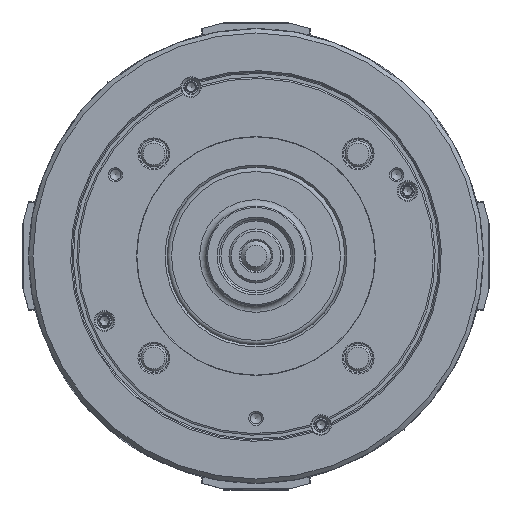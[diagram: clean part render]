
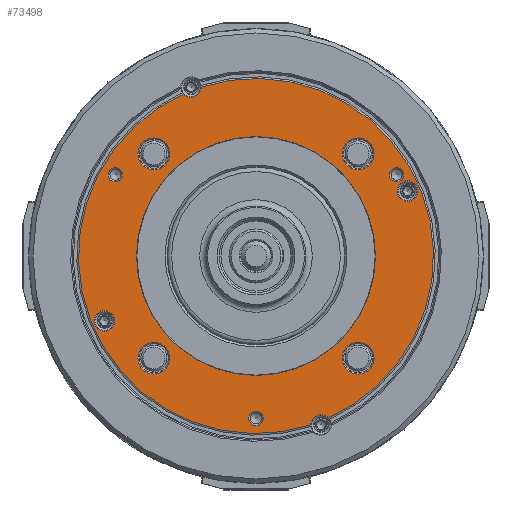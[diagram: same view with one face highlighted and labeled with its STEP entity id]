
A CAD part, left-side view. The second image highlights one B-rep face of the part: STEP entity #73498.
In plain terms, the highlighted planar face has unit normal (-1, 0, 0).
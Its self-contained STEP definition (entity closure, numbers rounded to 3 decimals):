
#497 = EDGE_LOOP ( 'NONE', ( #90089 ) ) ;
#532 = VERTEX_POINT ( 'NONE', #73270 ) ;
#655 = EDGE_LOOP ( 'NONE', ( #12393 ) ) ;
#1102 = EDGE_LOOP ( 'NONE', ( #3893 ) ) ;
#3449 = CARTESIAN_POINT ( 'NONE',  ( -86., 61.652, 37.5 ) ) ;
#3893 = ORIENTED_EDGE ( 'NONE', *, *, #64326, .T. ) ;
#4475 = AXIS2_PLACEMENT_3D ( 'NONE', #94592, #78416, #4659 ) ;
#4640 = CARTESIAN_POINT ( 'NONE',  ( -86., -70., 30. ) ) ;
#4659 = DIRECTION ( 'NONE',  ( 0., 1., 0. ) ) ;
#4748 = CARTESIAN_POINT ( 'NONE',  ( -86., 0., 0. ) ) ;
#5167 = FACE_BOUND ( 'NONE', #72336, .T. ) ;
#6302 = DIRECTION ( 'NONE',  ( 1., 0., 0. ) ) ;
#7144 = DIRECTION ( 'NONE',  ( 0., 1., 0. ) ) ;
#8108 = EDGE_CURVE ( 'NONE', #46652, #46652, #71345, .T. ) ;
#10719 = CARTESIAN_POINT ( 'NONE',  ( -86., 0., 0. ) ) ;
#11152 = CIRCLE ( 'NONE', #79991, 82. ) ;
#11452 = EDGE_CURVE ( 'NONE', #85600, #52037, #11152, .T. ) ;
#11598 = EDGE_CURVE ( 'NONE', #100967, #52037, #88368, .T. ) ;
#11932 = DIRECTION ( 'NONE',  ( 0., 1., 0. ) ) ;
#12309 = AXIS2_PLACEMENT_3D ( 'NONE', #4640, #20752, #85440 ) ;
#12393 = ORIENTED_EDGE ( 'NONE', *, *, #56638, .T. ) ;
#12535 = DIRECTION ( 'NONE',  ( -1., 0., 0. ) ) ;
#12691 = FACE_BOUND ( 'NONE', #14165, .T. ) ;
#13236 = FACE_BOUND ( 'NONE', #79550, .T. ) ;
#13831 = AXIS2_PLACEMENT_3D ( 'NONE', #31779, #18623, #98966 ) ;
#13850 = DIRECTION ( 'NONE',  ( 1., 0., 0. ) ) ;
#14165 = EDGE_LOOP ( 'NONE', ( #69536 ) ) ;
#14394 = DIRECTION ( 'NONE',  ( 0., 1., 0. ) ) ;
#15111 = EDGE_LOOP ( 'NONE', ( #16789 ) ) ;
#15752 = VERTEX_POINT ( 'NONE', #48094 ) ;
#16789 = ORIENTED_EDGE ( 'NONE', *, *, #8108, .T. ) ;
#18623 = DIRECTION ( 'NONE',  ( -1., 0., 0. ) ) ;
#18773 = DIRECTION ( 'NONE',  ( 1., 0., 0. ) ) ;
#20717 = CIRCLE ( 'NONE', #82641, 4.75 ) ;
#20752 = DIRECTION ( 'NONE',  ( 1., 0., 0. ) ) ;
#21073 = CARTESIAN_POINT ( 'NONE',  ( -86., 74.75, -30. ) ) ;
#21983 = DIRECTION ( 'NONE',  ( -1., 0., 0. ) ) ;
#22982 = DIRECTION ( 'NONE',  ( 0., 1., 0. ) ) ;
#23162 = DIRECTION ( 'NONE',  ( 1., 0., 0. ) ) ;
#23308 = VERTEX_POINT ( 'NONE', #39473 ) ;
#23449 = CARTESIAN_POINT ( 'NONE',  ( -86., -39.814, -47.164 ) ) ;
#24675 = EDGE_LOOP ( 'NONE', ( #79573 ) ) ;
#25298 = ORIENTED_EDGE ( 'NONE', *, *, #11598, .T. ) ;
#25885 = EDGE_LOOP ( 'NONE', ( #100479 ) ) ;
#27069 = CARTESIAN_POINT ( 'NONE',  ( -86., 47.164, 47.164 ) ) ;
#27581 = VERTEX_POINT ( 'NONE', #81015 ) ;
#29271 = VERTEX_POINT ( 'NONE', #62128 ) ;
#30393 = AXIS2_PLACEMENT_3D ( 'NONE', #10719, #18773, #60241 ) ;
#30923 = ORIENTED_EDGE ( 'NONE', *, *, #103140, .F. ) ;
#31779 = CARTESIAN_POINT ( 'NONE',  ( -86., 64.952, 37.5 ) ) ;
#32152 = EDGE_CURVE ( 'NONE', #29271, #29271, #50737, .T. ) ;
#32172 = CARTESIAN_POINT ( 'NONE',  ( -86., -47.164, -47.164 ) ) ;
#35310 = CARTESIAN_POINT ( 'NONE',  ( -86., -25.25, -78.016 ) ) ;
#35891 = FACE_BOUND ( 'NONE', #655, .T. ) ;
#36044 = AXIS2_PLACEMENT_3D ( 'NONE', #27069, #77121, #11932 ) ;
#36343 = CIRCLE ( 'NONE', #46917, 7.35 ) ;
#36436 = CARTESIAN_POINT ( 'NONE',  ( -86., 25.25, 78.016 ) ) ;
#36777 = EDGE_LOOP ( 'NONE', ( #88759, #72591, #84774, #25298 ) ) ;
#36954 = FACE_BOUND ( 'NONE', #24675, .T. ) ;
#37784 = EDGE_CURVE ( 'NONE', #86936, #86936, #75736, .T. ) ;
#39473 = CARTESIAN_POINT ( 'NONE',  ( -86., -68.252, 37.5 ) ) ;
#40216 = CARTESIAN_POINT ( 'NONE',  ( -86., -30., -78. ) ) ;
#40545 = CARTESIAN_POINT ( 'NONE',  ( -86., 54.514, 47.164 ) ) ;
#41803 = CIRCLE ( 'NONE', #102079, 4.75 ) ;
#42654 = VERTEX_POINT ( 'NONE', #21073 ) ;
#44650 = CARTESIAN_POINT ( 'NONE',  ( -86., 0., -75. ) ) ;
#46652 = VERTEX_POINT ( 'NONE', #23449 ) ;
#46917 = AXIS2_PLACEMENT_3D ( 'NONE', #96979, #23162, #104032 ) ;
#47040 = ORIENTED_EDGE ( 'NONE', *, *, #68103, .T. ) ;
#48094 = CARTESIAN_POINT ( 'NONE',  ( -86., -65.25, 30. ) ) ;
#48684 = CARTESIAN_POINT ( 'NONE',  ( -86., 70., -30. ) ) ;
#50723 = VERTEX_POINT ( 'NONE', #40545 ) ;
#50737 = CIRCLE ( 'NONE', #52444, 55.2 ) ;
#52037 = VERTEX_POINT ( 'NONE', #99557 ) ;
#52444 = AXIS2_PLACEMENT_3D ( 'NONE', #4748, #13850, #104901 ) ;
#54471 = CIRCLE ( 'NONE', #30393, 82. ) ;
#56202 = DIRECTION ( 'NONE',  ( 1., 0., 0. ) ) ;
#56638 = EDGE_CURVE ( 'NONE', #15752, #15752, #105245, .T. ) ;
#58984 = EDGE_CURVE ( 'NONE', #23308, #23308, #78576, .T. ) ;
#60186 = DIRECTION ( 'NONE',  ( 1., 0., 0. ) ) ;
#60241 = DIRECTION ( 'NONE',  ( 0., 1., 0. ) ) ;
#60643 = FACE_BOUND ( 'NONE', #1102, .T. ) ;
#61045 = AXIS2_PLACEMENT_3D ( 'NONE', #32172, #88215, #14394 ) ;
#62128 = CARTESIAN_POINT ( 'NONE',  ( -86., 55.2, 0. ) ) ;
#62253 = FACE_BOUND ( 'NONE', #25885, .T. ) ;
#62790 = FACE_BOUND ( 'NONE', #15111, .T. ) ;
#63083 = VERTEX_POINT ( 'NONE', #88906 ) ;
#63273 = CIRCLE ( 'NONE', #73552, 3.3 ) ;
#64326 = EDGE_CURVE ( 'NONE', #50723, #50723, #87629, .T. ) ;
#64511 = CARTESIAN_POINT ( 'NONE',  ( -86., 47.164, -47.164 ) ) ;
#65145 = EDGE_LOOP ( 'NONE', ( #76028 ) ) ;
#68103 = EDGE_CURVE ( 'NONE', #74431, #74431, #36343, .T. ) ;
#68729 = FACE_OUTER_BOUND ( 'NONE', #36777, .T. ) ;
#69536 = ORIENTED_EDGE ( 'NONE', *, *, #74190, .T. ) ;
#69634 = CARTESIAN_POINT ( 'NONE',  ( -86., -64.952, 37.5 ) ) ;
#70460 = DIRECTION ( 'NONE',  ( 0., -1., 0. ) ) ;
#71185 = CIRCLE ( 'NONE', #98756, 7.35 ) ;
#71345 = CIRCLE ( 'NONE', #61045, 7.35 ) ;
#72336 = EDGE_LOOP ( 'NONE', ( #47040 ) ) ;
#72370 = DIRECTION ( 'NONE',  ( 0., 1., 0. ) ) ;
#72591 = ORIENTED_EDGE ( 'NONE', *, *, #95575, .T. ) ;
#73270 = CARTESIAN_POINT ( 'NONE',  ( -86., -3.3, -75. ) ) ;
#73498 = ADVANCED_FACE ( 'NONE', ( #12691, #35891, #13236, #36954, #62253, #60643, #93527, #62790, #5167, #68729, #102720 ), #101630, .F. ) ;
#73552 = AXIS2_PLACEMENT_3D ( 'NONE', #44650, #21983, #70460 ) ;
#73887 = CARTESIAN_POINT ( 'NONE',  ( -86., 30., 78. ) ) ;
#74190 = EDGE_CURVE ( 'NONE', #42654, #42654, #20717, .T. ) ;
#74431 = VERTEX_POINT ( 'NONE', #98728 ) ;
#75736 = CIRCLE ( 'NONE', #13831, 3.3 ) ;
#76028 = ORIENTED_EDGE ( 'NONE', *, *, #32152, .T. ) ;
#76280 = AXIS2_PLACEMENT_3D ( 'NONE', #40216, #6302, #22982 ) ;
#77121 = DIRECTION ( 'NONE',  ( 1., 0., 0. ) ) ;
#78416 = DIRECTION ( 'NONE',  ( 1., 0., 0. ) ) ;
#78576 = CIRCLE ( 'NONE', #90642, 3.3 ) ;
#78783 = DIRECTION ( 'NONE',  ( 0., -1., 0. ) ) ;
#79550 = EDGE_LOOP ( 'NONE', ( #30923 ) ) ;
#79573 = ORIENTED_EDGE ( 'NONE', *, *, #37784, .F. ) ;
#79991 = AXIS2_PLACEMENT_3D ( 'NONE', #102256, #60186, #86612 ) ;
#80946 = DIRECTION ( 'NONE',  ( 1., 0., 0. ) ) ;
#81015 = CARTESIAN_POINT ( 'NONE',  ( -86., 33.536, 74.829 ) ) ;
#82298 = DIRECTION ( 'NONE',  ( 1., 0., 0. ) ) ;
#82641 = AXIS2_PLACEMENT_3D ( 'NONE', #48684, #56202, #72370 ) ;
#84774 = ORIENTED_EDGE ( 'NONE', *, *, #86212, .F. ) ;
#85440 = DIRECTION ( 'NONE',  ( 0., 1., 0. ) ) ;
#85600 = VERTEX_POINT ( 'NONE', #36436 ) ;
#86212 = EDGE_CURVE ( 'NONE', #100967, #27581, #54471, .T. ) ;
#86612 = DIRECTION ( 'NONE',  ( 0., 1., 0. ) ) ;
#86936 = VERTEX_POINT ( 'NONE', #3449 ) ;
#87629 = CIRCLE ( 'NONE', #36044, 7.35 ) ;
#88215 = DIRECTION ( 'NONE',  ( 1., 0., 0. ) ) ;
#88368 = CIRCLE ( 'NONE', #76280, 4.75 ) ;
#88759 = ORIENTED_EDGE ( 'NONE', *, *, #11452, .F. ) ;
#88906 = CARTESIAN_POINT ( 'NONE',  ( -86., 54.514, -47.164 ) ) ;
#90089 = ORIENTED_EDGE ( 'NONE', *, *, #96356, .T. ) ;
#90642 = AXIS2_PLACEMENT_3D ( 'NONE', #69634, #12535, #78783 ) ;
#93527 = FACE_BOUND ( 'NONE', #497, .T. ) ;
#94592 = CARTESIAN_POINT ( 'NONE',  ( -86., 0., -82. ) ) ;
#95575 = EDGE_CURVE ( 'NONE', #85600, #27581, #41803, .T. ) ;
#96356 = EDGE_CURVE ( 'NONE', #63083, #63083, #71185, .T. ) ;
#96979 = CARTESIAN_POINT ( 'NONE',  ( -86., -47.164, 47.164 ) ) ;
#98728 = CARTESIAN_POINT ( 'NONE',  ( -86., -39.814, 47.164 ) ) ;
#98756 = AXIS2_PLACEMENT_3D ( 'NONE', #64511, #82298, #104951 ) ;
#98966 = DIRECTION ( 'NONE',  ( 0., -1., 0. ) ) ;
#99557 = CARTESIAN_POINT ( 'NONE',  ( -86., -33.536, -74.829 ) ) ;
#100479 = ORIENTED_EDGE ( 'NONE', *, *, #58984, .F. ) ;
#100967 = VERTEX_POINT ( 'NONE', #35310 ) ;
#101630 = PLANE ( 'NONE',  #4475 ) ;
#102079 = AXIS2_PLACEMENT_3D ( 'NONE', #73887, #80946, #7144 ) ;
#102256 = CARTESIAN_POINT ( 'NONE',  ( -86., 0., 0. ) ) ;
#102720 = FACE_BOUND ( 'NONE', #65145, .T. ) ;
#103140 = EDGE_CURVE ( 'NONE', #532, #532, #63273, .T. ) ;
#104032 = DIRECTION ( 'NONE',  ( 0., 1., 0. ) ) ;
#104901 = DIRECTION ( 'NONE',  ( 0., 1., 0. ) ) ;
#104951 = DIRECTION ( 'NONE',  ( 0., 1., 0. ) ) ;
#105245 = CIRCLE ( 'NONE', #12309, 4.75 ) ;
